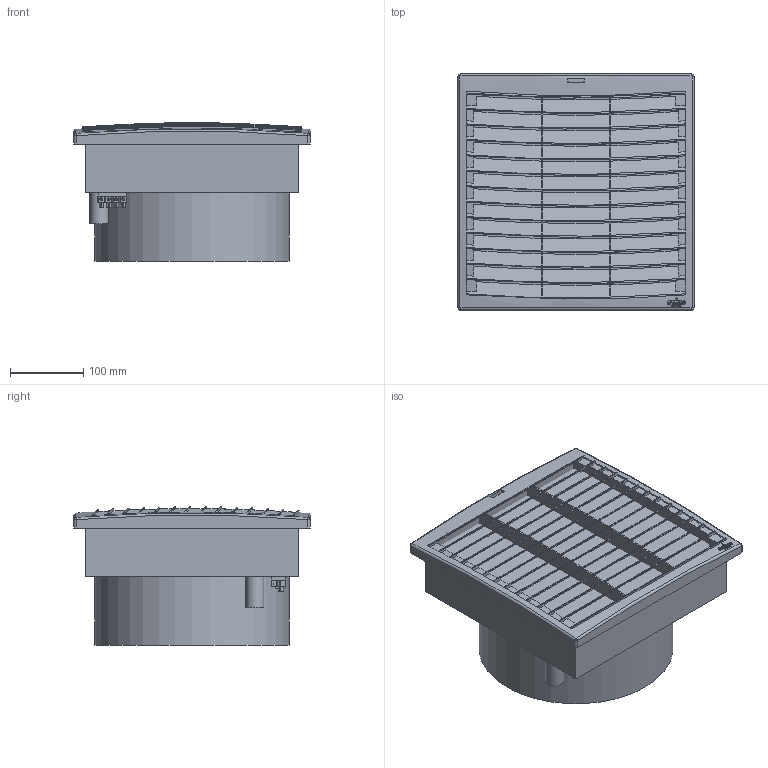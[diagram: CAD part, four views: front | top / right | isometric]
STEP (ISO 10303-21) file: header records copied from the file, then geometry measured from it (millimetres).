
FILE_DESCRIPTION (( 'STEP AP214' ), '1' );
FILE_NAME ('FPI_018_291x291_EPLAN_10_2015.STEP', '2015-10-15T12:53:12', ( '' ), ( '' ), 'SwSTEP 2.0', 'SolidWorks 2015', '' );
FILE_SCHEMA (( 'AUTOMOTIVE_DESIGN' ));
Length unit declared in the file: millimetre
Products named in the file (1): FPI_018_291x291_EPLAN_10_2015
Bounding box: 322 x 322 x 189.13 mm (x, y, z)
Surface area: 586908.9 mm2 (no closed solid volume)
Topology: 0 solids, 18 shells, 332 faces, 1612 edges, 1200 vertices
Faces by surface type: plane 179, sphere 79, bspline 33, cylinder 30, torus 6, cone 5
Full cylindrical faces by diameter (mm): 3.1 x1, 4 x4, 25 x1, 265 x1
Entity records: 21251 total; most frequent: CARTESIAN_POINT 5147, DIRECTION 2596, ORIENTED_EDGE 2345, EDGE_CURVE 1593, VERTEX_POINT 1196, AXIS2_PLACEMENT_3D 901, VECTOR 794, LINE 794
